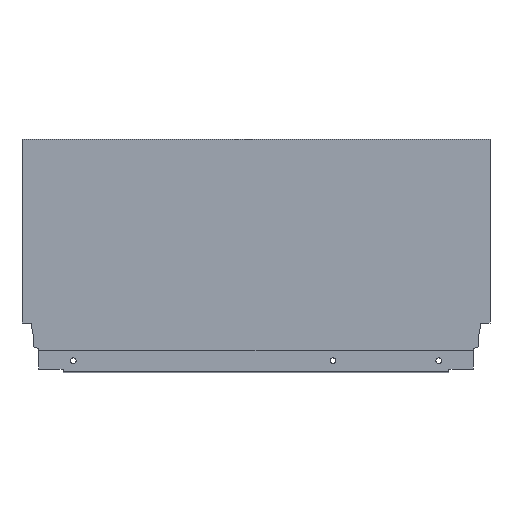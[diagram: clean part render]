
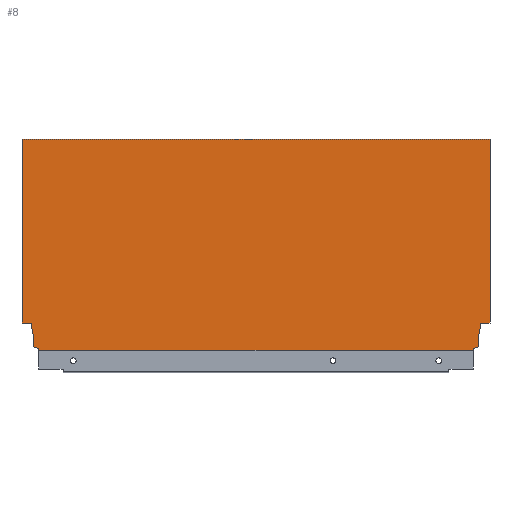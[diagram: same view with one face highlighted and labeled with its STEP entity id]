
A CAD part, top view. The second image highlights one B-rep face of the part: STEP entity #8.
In plain terms, the highlighted planar face has unit normal (0, 0, 1).
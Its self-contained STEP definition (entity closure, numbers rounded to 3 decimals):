
#8 = ADVANCED_FACE ( 'NONE', ( #692 ), #1186, .T. ) ;
#27 = DIRECTION ( 'NONE',  ( 0., -1., 0. ) ) ;
#30 = DIRECTION ( 'NONE',  ( -0.174, -0.985, 0. ) ) ;
#31 = CARTESIAN_POINT ( 'NONE',  ( -7.06, 21.2, 7.5 ) ) ;
#32 = CARTESIAN_POINT ( 'NONE',  ( 0., 0., 7.5 ) ) ;
#36 = DIRECTION ( 'NONE',  ( 1., 0., 0. ) ) ;
#37 = CARTESIAN_POINT ( 'NONE',  ( -365., 164.7, 7.5 ) ) ;
#38 = DIRECTION ( 'NONE',  ( -0.94, -0.342, 0. ) ) ;
#163 = CARTESIAN_POINT ( 'NONE',  ( -8.9, 2.64, 7.5 ) ) ;
#383 = VECTOR ( 'NONE', #36, 1000. ) ;
#384 = LINE ( 'NONE', #37, #383 ) ;
#385 = VECTOR ( 'NONE', #27, 1000. ) ;
#386 = LINE ( 'NONE', #32, #385 ) ;
#388 = VECTOR ( 'NONE', #1174, 1000. ) ;
#389 = VECTOR ( 'NONE', #38, 1000. ) ;
#390 = LINE ( 'NONE', #163, #389 ) ;
#391 = VECTOR ( 'NONE', #30, 1000. ) ;
#392 = LINE ( 'NONE', #31, #391 ) ;
#394 = LINE ( 'NONE', #1206, #396 ) ;
#396 = VECTOR ( 'NONE', #1194, 1000. ) ;
#397 = LINE ( 'NONE', #1183, #410 ) ;
#398 = LINE ( 'NONE', #1192, #399 ) ;
#399 = VECTOR ( 'NONE', #1191, 1000. ) ;
#401 = LINE ( 'NONE', #1180, #406 ) ;
#404 = VECTOR ( 'NONE', #1169, 1000. ) ;
#406 = VECTOR ( 'NONE', #1172, 1000. ) ;
#407 = VECTOR ( 'NONE', #1176, 1000. ) ;
#408 = LINE ( 'NONE', #1177, #407 ) ;
#409 = LINE ( 'NONE', #1170, #388 ) ;
#410 = VECTOR ( 'NONE', #1179, 1000. ) ;
#411 = LINE ( 'NONE', #1175, #404 ) ;
#412 = VECTOR ( 'NONE', #1182, 1000. ) ;
#413 = LINE ( 'NONE', #1185, #414 ) ;
#414 = VECTOR ( 'NONE', #1184, 1000. ) ;
#419 = VECTOR ( 'NONE', #1197, 1000. ) ;
#421 = LINE ( 'NONE', #1199, #419 ) ;
#424 = LINE ( 'NONE', #1190, #412 ) ;
#574 = EDGE_LOOP ( 'NONE', ( #591, #592, #596, #588, #589, #581, #706, #684, #683, #632, #633, #652, #644, #645 ) ) ;
#581 = ORIENTED_EDGE ( 'NONE', *, *, #877, .F. ) ;
#588 = ORIENTED_EDGE ( 'NONE', *, *, #883, .F. ) ;
#589 = ORIENTED_EDGE ( 'NONE', *, *, #880, .F. ) ;
#591 = ORIENTED_EDGE ( 'NONE', *, *, #882, .T. ) ;
#592 = ORIENTED_EDGE ( 'NONE', *, *, #881, .F. ) ;
#596 = ORIENTED_EDGE ( 'NONE', *, *, #878, .F. ) ;
#632 = ORIENTED_EDGE ( 'NONE', *, *, #884, .F. ) ;
#633 = ORIENTED_EDGE ( 'NONE', *, *, #886, .F. ) ;
#644 = ORIENTED_EDGE ( 'NONE', *, *, #889, .F. ) ;
#645 = ORIENTED_EDGE ( 'NONE', *, *, #890, .F. ) ;
#652 = ORIENTED_EDGE ( 'NONE', *, *, #888, .F. ) ;
#683 = ORIENTED_EDGE ( 'NONE', *, *, #887, .F. ) ;
#684 = ORIENTED_EDGE ( 'NONE', *, *, #885, .F. ) ;
#692 = FACE_OUTER_BOUND ( 'NONE', #574, .T. ) ;
#706 = ORIENTED_EDGE ( 'NONE', *, *, #876, .T. ) ;
#876 = EDGE_CURVE ( 'NONE', #1432, #1510, #421, .T. ) ;
#877 = EDGE_CURVE ( 'NONE', #1432, #1380, #394, .T. ) ;
#878 = EDGE_CURVE ( 'NONE', #1274, #1428, #398, .T. ) ;
#880 = EDGE_CURVE ( 'NONE', #1380, #1298, #413, .T. ) ;
#881 = EDGE_CURVE ( 'NONE', #1428, #1522, #424, .T. ) ;
#882 = EDGE_CURVE ( 'NONE', #1320, #1522, #397, .T. ) ;
#883 = EDGE_CURVE ( 'NONE', #1298, #1274, #408, .T. ) ;
#884 = EDGE_CURVE ( 'NONE', #1265, #1271, #401, .T. ) ;
#885 = EDGE_CURVE ( 'NONE', #1355, #1510, #411, .T. ) ;
#886 = EDGE_CURVE ( 'NONE', #1451, #1265, #392, .T. ) ;
#887 = EDGE_CURVE ( 'NONE', #1271, #1355, #390, .T. ) ;
#888 = EDGE_CURVE ( 'NONE', #1260, #1451, #409, .T. ) ;
#889 = EDGE_CURVE ( 'NONE', #1237, #1260, #386, .T. ) ;
#890 = EDGE_CURVE ( 'NONE', #1320, #1237, #384, .T. ) ;
#918 = CARTESIAN_POINT ( 'NONE',  ( -365., 21.2, 7.5 ) ) ;
#922 = CARTESIAN_POINT ( 'NONE',  ( -13.004, 0., 7.5 ) ) ;
#940 = CARTESIAN_POINT ( 'NONE',  ( -7.06, 21.2, 7.5 ) ) ;
#946 = CARTESIAN_POINT ( 'NONE',  ( -351.996, 0., 7.5 ) ) ;
#948 = CARTESIAN_POINT ( 'NONE',  ( -357.94, 21.2, 7.5 ) ) ;
#962 = CARTESIAN_POINT ( 'NONE',  ( -351.996, 1.146, 7.5 ) ) ;
#969 = CARTESIAN_POINT ( 'NONE',  ( -13.004, 1.146, 7.5 ) ) ;
#980 = CARTESIAN_POINT ( 'NONE',  ( -365., 164.7, 7.5 ) ) ;
#986 = CARTESIAN_POINT ( 'NONE',  ( -356.1, 2.64, 7.5 ) ) ;
#995 = CARTESIAN_POINT ( 'NONE',  ( 0., 164.7, 7.5 ) ) ;
#997 = CARTESIAN_POINT ( 'NONE',  ( -356.1, 10.765, 7.5 ) ) ;
#998 = CARTESIAN_POINT ( 'NONE',  ( -8.9, 2.64, 7.5 ) ) ;
#1000 = CARTESIAN_POINT ( 'NONE',  ( -8.9, 10.765, 7.5 ) ) ;
#1001 = CARTESIAN_POINT ( 'NONE',  ( 0., 21.2, 7.5 ) ) ;
#1113 = AXIS2_PLACEMENT_3D ( 'NONE', #1173, #1535, #1533 ) ;
#1169 = DIRECTION ( 'NONE',  ( 0., -1., 0. ) ) ;
#1170 = CARTESIAN_POINT ( 'NONE',  ( 0., 21.2, 7.5 ) ) ;
#1172 = DIRECTION ( 'NONE',  ( 0., -1., 0. ) ) ;
#1173 = CARTESIAN_POINT ( 'NONE',  ( -365., 0., 7.5 ) ) ;
#1174 = DIRECTION ( 'NONE',  ( -1., 0., 0. ) ) ;
#1175 = CARTESIAN_POINT ( 'NONE',  ( -13.004, 1.146, 7.5 ) ) ;
#1176 = DIRECTION ( 'NONE',  ( 0., 1., 0. ) ) ;
#1177 = CARTESIAN_POINT ( 'NONE',  ( -356.1, 10.765, 7.5 ) ) ;
#1179 = DIRECTION ( 'NONE',  ( 0., -1., 0. ) ) ;
#1180 = CARTESIAN_POINT ( 'NONE',  ( -8.9, 10.765, 7.5 ) ) ;
#1182 = DIRECTION ( 'NONE',  ( -1., 0., 0. ) ) ;
#1183 = CARTESIAN_POINT ( 'NONE',  ( -365., 0., 7.5 ) ) ;
#1184 = DIRECTION ( 'NONE',  ( -0.94, 0.342, 0. ) ) ;
#1185 = CARTESIAN_POINT ( 'NONE',  ( -356.1, 2.64, 7.5 ) ) ;
#1186 = PLANE ( 'NONE',  #1113 ) ;
#1190 = CARTESIAN_POINT ( 'NONE',  ( -370., 21.2, 7.5 ) ) ;
#1191 = DIRECTION ( 'NONE',  ( -0.174, 0.985, 0. ) ) ;
#1192 = CARTESIAN_POINT ( 'NONE',  ( -357.94, 21.2, 7.5 ) ) ;
#1194 = DIRECTION ( 'NONE',  ( 0., 1., 0. ) ) ;
#1197 = DIRECTION ( 'NONE',  ( 1., 0., 0. ) ) ;
#1199 = CARTESIAN_POINT ( 'NONE',  ( -365., 0., 7.5 ) ) ;
#1206 = CARTESIAN_POINT ( 'NONE',  ( -351.996, 1.146, 7.5 ) ) ;
#1237 = VERTEX_POINT ( 'NONE', #995 ) ;
#1260 = VERTEX_POINT ( 'NONE', #1001 ) ;
#1265 = VERTEX_POINT ( 'NONE', #1000 ) ;
#1271 = VERTEX_POINT ( 'NONE', #998 ) ;
#1274 = VERTEX_POINT ( 'NONE', #997 ) ;
#1298 = VERTEX_POINT ( 'NONE', #986 ) ;
#1320 = VERTEX_POINT ( 'NONE', #980 ) ;
#1355 = VERTEX_POINT ( 'NONE', #969 ) ;
#1380 = VERTEX_POINT ( 'NONE', #962 ) ;
#1428 = VERTEX_POINT ( 'NONE', #948 ) ;
#1432 = VERTEX_POINT ( 'NONE', #946 ) ;
#1451 = VERTEX_POINT ( 'NONE', #940 ) ;
#1510 = VERTEX_POINT ( 'NONE', #922 ) ;
#1522 = VERTEX_POINT ( 'NONE', #918 ) ;
#1533 = DIRECTION ( 'NONE',  ( 1., 0., 0. ) ) ;
#1535 = DIRECTION ( 'NONE',  ( 0., 0., 1. ) ) ;
